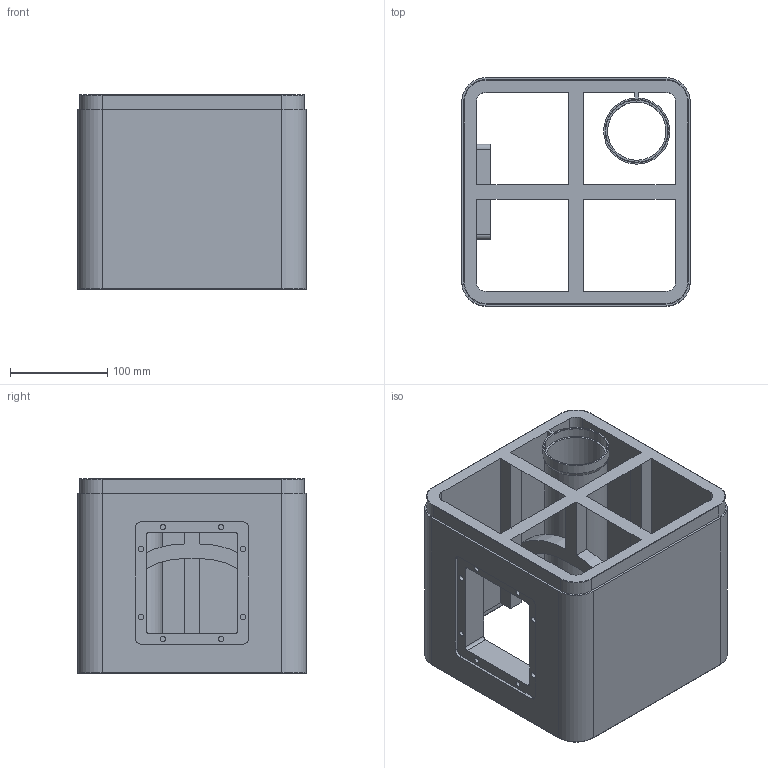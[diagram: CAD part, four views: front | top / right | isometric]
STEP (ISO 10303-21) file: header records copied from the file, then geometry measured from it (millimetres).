
FILE_DESCRIPTION(/* description */ ('STEP AP242 Edition 2','CAx-IF Rec.Pracs.---Representation and Presentation of Product Manufacturing Information (PMI)---4.0---2014-10-13','CAx-IF Rec.Pracs.---3D Tessellated Geometry---0.4---2014-09-14','2;1','CAx-IF Rec.Pracs.---User Defined Attributes---1.5---2016-08-15'),/* implementation_level */ '2;1');
FILE_NAME(/* name */ '693e388a3100820afeb0ba64',/* time_stamp */ '2025-12-14T04:09:47Z',/* author */ (''),/* organization */ (''),/* preprocessor_version */ 'ST-DEVELOPER v20',/* originating_system */ 'ONSHAPE BY PTC INC, 1.208',/* authorisation */ ' ');
FILE_SCHEMA (('AP242_MANAGED_MODEL_BASED_3D_ENGINEERING_MIM_LF { 1 0 10303 442 3 1 4 }'));
Length unit declared in the file: metre
Products named in the file (1): Speaker base with amp HiVi 5.8
Bounding box: 235 x 235 x 200 mm (x, y, z)
Volume: 2475571.6 mm3; surface area: 488920.9 mm2
Topology: 1 solids, 1 shells, 147 faces, 380 edges, 240 vertices
Faces by surface type: plane 77, cylinder 56, torus 14
Full cylindrical faces by diameter (mm): 5.7 x8, 60 x1, 64 x2
Entity records: 4438 total; most frequent: DIRECTION 786, CARTESIAN_POINT 758, ORIENTED_EDGE 732, EDGE_CURVE 366, AXIS2_PLACEMENT_3D 274, VERTEX_POINT 238, LINE 238, VECTOR 238
